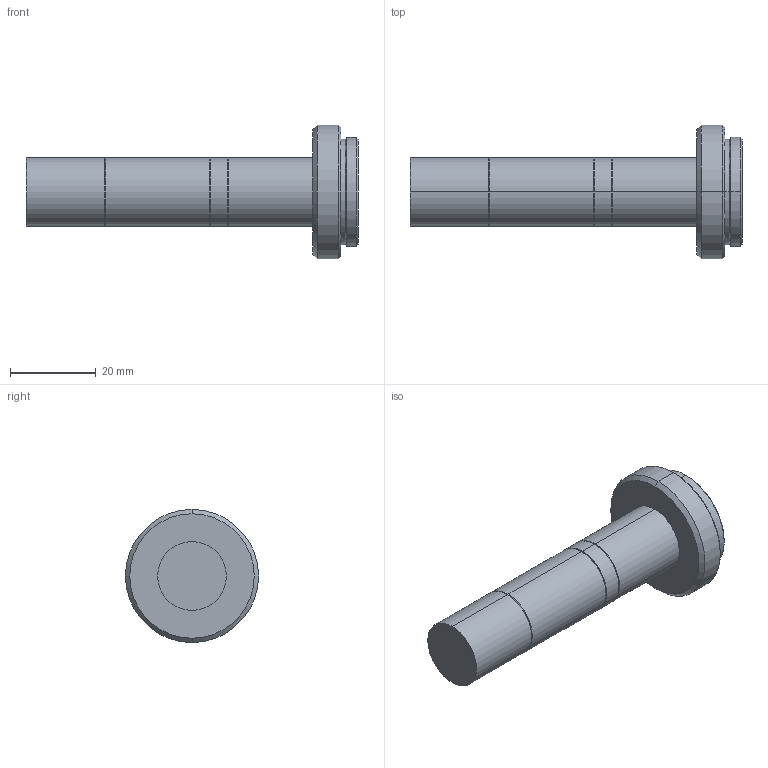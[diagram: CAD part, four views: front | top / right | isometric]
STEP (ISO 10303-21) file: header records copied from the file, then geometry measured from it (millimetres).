
FILE_DESCRIPTION (( 'STEP AP203' ), '1' );
FILE_NAME ('VS-TC5-65.STEP', '2020-02-13T00:55:28', ( '' ), ( '' ), 'SwSTEP 2.0', 'SolidWorks 2017', '' );
FILE_SCHEMA (( 'CONFIG_CONTROL_DESIGN' ));
Length unit declared in the file: millimetre
Products named in the file (1): VS-TC5-65
Bounding box: 77.3 x 31 x 31 mm (x, y, z)
Volume: 20258.6 mm3; surface area: 5767.2 mm2
Topology: 1 solids, 1 shells, 38 faces, 74 edges, 40 vertices
Faces by surface type: cone 20, cylinder 14, plane 4
Entity records: 1031 total; most frequent: DIRECTION 192, CARTESIAN_POINT 153, ORIENTED_EDGE 148, AXIS2_PLACEMENT_3D 79, EDGE_CURVE 74, CIRCLE 40, EDGE_LOOP 40, VERTEX_POINT 40
